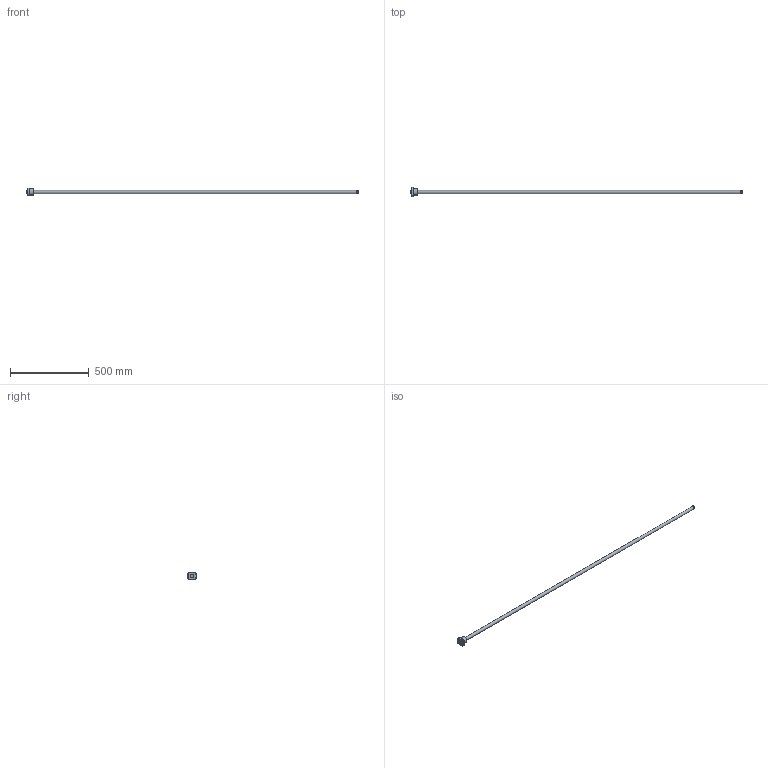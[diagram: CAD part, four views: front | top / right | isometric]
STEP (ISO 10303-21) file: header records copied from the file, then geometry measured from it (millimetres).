
FILE_DESCRIPTION( ( 'STEP AP203' ), ' ' );
FILE_NAME( 'p:/temp/worker_47/1504_1140/app_52_12018011810404336842554818fa3fd_000000_00_00_000000/format_0/BTK 2005V-2.6ZZ+2112LT_20520.stp', '2018-01-18T09:40:44', ( '' ), ( '' ), ' ', 'PARTsolutions', ' ' );
FILE_SCHEMA( ( 'CONFIG_CONTROL_DESIGN' ) );
Length unit declared in the file: millimetre
Products named in the file (3): BTK 2005V-2.6ZZ+2112LT_20520; _BTK 2005V-2.62052 Shaft; _BTK 2005V-2.6ZZ Nut
Assembly tree (2 placements, depth 2):
  BTK 2005V-2.6ZZ+2112LT_20520
    _BTK 2005V-2.62052 Shaft
    _BTK 2005V-2.6ZZ Nut
Bounding box: 2112 x 60 x 46 mm (x, y, z)
Volume: 709919.4 mm3; surface area: 147182.3 mm2
Topology: 2 solids, 2 shells, 39 faces, 84 edges, 55 vertices
Faces by surface type: cylinder 17, plane 14, cone 8
Full cylindrical faces by diameter (mm): 4.5 x4, 4.917 x1, 16 x2, 20 x4, 24 x2, 36 x1, 40 x1
Entity records: 1196 total; most frequent: CARTESIAN_POINT 297, DIRECTION 174, ORIENTED_EDGE 122, AXIS2_PLACEMENT_3D 82, EDGE_LOOP 76, EDGE_CURVE 61, FACE_OUTER_BOUND 54, VERTEX_POINT 51
